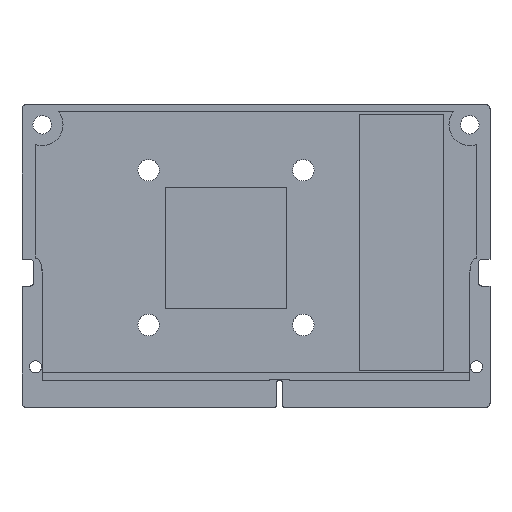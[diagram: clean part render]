
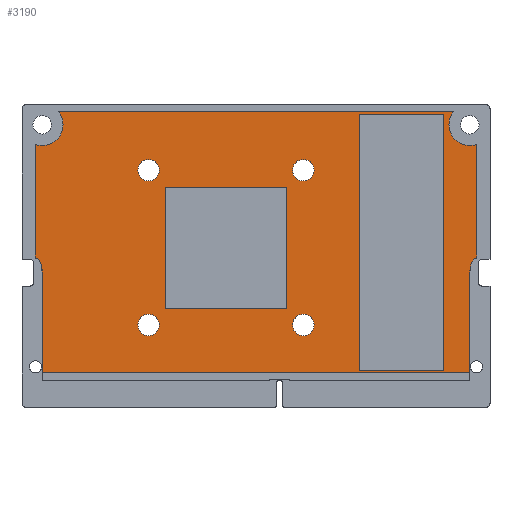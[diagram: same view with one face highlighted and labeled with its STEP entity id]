
A CAD part, top view. The second image highlights one B-rep face of the part: STEP entity #3190.
In plain terms, the highlighted planar face has unit normal (0, 0, 1).
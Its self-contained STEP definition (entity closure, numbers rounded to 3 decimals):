
#987=CARTESIAN_POINT('',(16.83,29.25,3.));
#988=DIRECTION('',(0.,0.,-1.));
#989=DIRECTION('',(1.,0.,0.));
#990=AXIS2_PLACEMENT_3D('',#987,#988,#989);
#995=CARTESIAN_POINT('',(16.83,29.25,3.));
#996=DIRECTION('',(0.,0.,-1.));
#997=DIRECTION('',(-1.,0.,0.));
#998=AXIS2_PLACEMENT_3D('',#995,#996,#997);
#1003=CARTESIAN_POINT('',(39.83,29.25,3.));
#1004=DIRECTION('',(0.,0.,-1.));
#1005=DIRECTION('',(1.,0.,0.));
#1006=AXIS2_PLACEMENT_3D('',#1003,#1004,#1005);
#1011=CARTESIAN_POINT('',(39.83,29.25,3.));
#1012=DIRECTION('',(0.,0.,-1.));
#1013=DIRECTION('',(-1.,0.,0.));
#1014=AXIS2_PLACEMENT_3D('',#1011,#1012,#1013);
#1019=CARTESIAN_POINT('',(16.83,6.25,3.));
#1020=DIRECTION('',(0.,0.,-1.));
#1021=DIRECTION('',(1.,0.,0.));
#1022=AXIS2_PLACEMENT_3D('',#1019,#1020,#1021);
#1027=CARTESIAN_POINT('',(16.83,6.25,3.));
#1028=DIRECTION('',(0.,0.,-1.));
#1029=DIRECTION('',(-1.,0.,0.));
#1030=AXIS2_PLACEMENT_3D('',#1027,#1028,#1029);
#1035=CARTESIAN_POINT('',(39.83,6.25,3.));
#1036=DIRECTION('',(0.,0.,-1.));
#1037=DIRECTION('',(1.,0.,0.));
#1038=AXIS2_PLACEMENT_3D('',#1035,#1036,#1037);
#1043=CARTESIAN_POINT('',(39.83,6.25,3.));
#1044=DIRECTION('',(0.,0.,-1.));
#1045=DIRECTION('',(-1.,0.,0.));
#1046=AXIS2_PLACEMENT_3D('',#1043,#1044,#1045);
#1051=DIRECTION('',(-1.,0.,0.));
#1052=VECTOR('',#1051,58.863);
#1053=CARTESIAN_POINT('',(62.231,38.,3.));
#1054=LINE('',#1053,#1052);
#1058=CARTESIAN_POINT('',(64.6,36.,3.));
#1059=DIRECTION('',(0.,0.,-1.));
#1060=DIRECTION('',(0.323,-0.947,0.));
#1061=AXIS2_PLACEMENT_3D('',#1058,#1059,#1060);
#1066=DIRECTION('',(0.,1.,0.));
#1067=VECTOR('',#1066,16.869);
#1068=CARTESIAN_POINT('',(65.6,16.197,3.));
#1069=LINE('',#1068,#1067);
#1073=CARTESIAN_POINT('',(64.6,14.1,3.));
#1074=CARTESIAN_POINT('',(64.6,14.479,3.));
#1075=CARTESIAN_POINT('',(64.695,15.236,3.));
#1076=CARTESIAN_POINT('',(65.082,16.047,3.));
#1077=CARTESIAN_POINT('',(65.429,16.217,3.));
#1078=CARTESIAN_POINT('',(65.6,16.197,3.));
#1083=DIRECTION('',(0.,1.,0.));
#1084=VECTOR('',#1083,14.9);
#1085=CARTESIAN_POINT('',(64.6,-0.8,3.));
#1086=LINE('',#1085,#1084);
#1090=DIRECTION('',(1.,0.,0.));
#1091=VECTOR('',#1090,63.6);
#1092=CARTESIAN_POINT('',(1.,-0.8,3.));
#1093=LINE('',#1092,#1091);
#1097=DIRECTION('',(0.,-1.,0.));
#1098=VECTOR('',#1097,14.9);
#1099=CARTESIAN_POINT('',(1.,14.1,3.));
#1100=LINE('',#1099,#1098);
#1104=CARTESIAN_POINT('',(0.,16.197,3.));
#1105=CARTESIAN_POINT('',(0.171,16.217,3.));
#1106=CARTESIAN_POINT('',(0.518,16.047,3.));
#1107=CARTESIAN_POINT('',(0.905,15.236,3.));
#1108=CARTESIAN_POINT('',(1.,14.479,3.));
#1109=CARTESIAN_POINT('',(1.,14.1,3.));
#1114=DIRECTION('',(0.,-1.,0.));
#1115=VECTOR('',#1114,16.869);
#1116=CARTESIAN_POINT('',(0.,33.066,3.));
#1117=LINE('',#1116,#1115);
#1121=CARTESIAN_POINT('',(1.,36.,3.));
#1122=DIRECTION('',(0.,0.,-1.));
#1123=DIRECTION('',(0.764,0.645,0.));
#1124=AXIS2_PLACEMENT_3D('',#1121,#1122,#1123);
#1129=DIRECTION('',(0.,-1.,0.));
#1130=VECTOR('',#1129,18.);
#1131=CARTESIAN_POINT('',(37.33,26.75,3.));
#1132=LINE('',#1131,#1130);
#1136=DIRECTION('',(1.,0.,0.));
#1137=VECTOR('',#1136,18.);
#1138=CARTESIAN_POINT('',(19.33,26.75,3.));
#1139=LINE('',#1138,#1137);
#1143=DIRECTION('',(0.,1.,0.));
#1144=VECTOR('',#1143,18.);
#1145=CARTESIAN_POINT('',(19.33,8.75,3.));
#1146=LINE('',#1145,#1144);
#1150=DIRECTION('',(-1.,0.,0.));
#1151=VECTOR('',#1150,18.);
#1152=CARTESIAN_POINT('',(37.33,8.75,3.));
#1153=LINE('',#1152,#1151);
#1437=DIRECTION('',(1.,0.,0.));
#1438=VECTOR('',#1437,12.542);
#1439=CARTESIAN_POINT('',(48.158,-0.58,3.));
#1440=LINE('',#1439,#1438);
#1451=DIRECTION('',(0.,-1.,0.));
#1452=VECTOR('',#1451,38.18);
#1453=CARTESIAN_POINT('',(48.158,37.6,3.));
#1454=LINE('',#1453,#1452);
#1465=DIRECTION('',(-1.,0.,0.));
#1466=VECTOR('',#1465,12.542);
#1467=CARTESIAN_POINT('',(60.7,37.6,3.));
#1468=LINE('',#1467,#1466);
#1479=DIRECTION('',(0.,1.,0.));
#1480=VECTOR('',#1479,38.18);
#1481=CARTESIAN_POINT('',(60.7,-0.58,3.));
#1482=LINE('',#1481,#1480);
#2465=CARTESIAN_POINT('',(62.231,38.,3.));
#2466=CARTESIAN_POINT('',(3.369,38.,3.));
#2467=VERTEX_POINT('',#2465);
#2468=VERTEX_POINT('',#2466);
#2469=CARTESIAN_POINT('',(0.,33.066,3.));
#2470=VERTEX_POINT('',#2469);
#2471=CARTESIAN_POINT('',(0.,16.197,3.));
#2472=VERTEX_POINT('',#2471);
#2473=VERTEX_POINT('',#1109);
#2474=CARTESIAN_POINT('',(1.,-0.8,3.));
#2475=VERTEX_POINT('',#2474);
#2476=CARTESIAN_POINT('',(64.6,-0.8,3.));
#2477=VERTEX_POINT('',#2476);
#2478=CARTESIAN_POINT('',(64.6,14.1,3.));
#2479=VERTEX_POINT('',#2478);
#2480=VERTEX_POINT('',#1078);
#2481=CARTESIAN_POINT('',(65.6,33.066,3.));
#2482=VERTEX_POINT('',#2481);
#2496=CARTESIAN_POINT('',(48.158,-0.58,3.));
#2497=CARTESIAN_POINT('',(60.7,-0.58,3.));
#2498=VERTEX_POINT('',#2496);
#2499=VERTEX_POINT('',#2497);
#2500=CARTESIAN_POINT('',(60.7,37.6,3.));
#2501=VERTEX_POINT('',#2500);
#2502=CARTESIAN_POINT('',(48.158,37.6,3.));
#2503=VERTEX_POINT('',#2502);
#2681=CARTESIAN_POINT('',(18.43,29.25,3.));
#2682=CARTESIAN_POINT('',(15.23,29.25,3.));
#2683=VERTEX_POINT('',#2681);
#2684=VERTEX_POINT('',#2682);
#2685=CARTESIAN_POINT('',(41.43,29.25,3.));
#2686=CARTESIAN_POINT('',(38.23,29.25,3.));
#2687=VERTEX_POINT('',#2685);
#2688=VERTEX_POINT('',#2686);
#2689=CARTESIAN_POINT('',(18.43,6.25,3.));
#2690=CARTESIAN_POINT('',(15.23,6.25,3.));
#2691=VERTEX_POINT('',#2689);
#2692=VERTEX_POINT('',#2690);
#2693=CARTESIAN_POINT('',(41.43,6.25,3.));
#2694=CARTESIAN_POINT('',(38.23,6.25,3.));
#2695=VERTEX_POINT('',#2693);
#2696=VERTEX_POINT('',#2694);
#2697=CARTESIAN_POINT('',(37.33,26.75,3.));
#2698=CARTESIAN_POINT('',(37.33,8.75,3.));
#2699=VERTEX_POINT('',#2697);
#2700=VERTEX_POINT('',#2698);
#2701=CARTESIAN_POINT('',(19.33,8.75,3.));
#2702=VERTEX_POINT('',#2701);
#2703=CARTESIAN_POINT('',(19.33,26.75,3.));
#2704=VERTEX_POINT('',#2703);
#3121=CARTESIAN_POINT('',(0.,0.,3.));
#3122=DIRECTION('',(0.,0.,1.));
#3123=DIRECTION('',(1.,0.,0.));
#3124=AXIS2_PLACEMENT_3D('',#3121,#3122,#3123);
#3125=PLANE('',#3124);
#3127=ORIENTED_EDGE('',*,*,#3126,.F.);
#3129=ORIENTED_EDGE('',*,*,#3128,.F.);
#3131=ORIENTED_EDGE('',*,*,#3130,.F.);
#3133=ORIENTED_EDGE('',*,*,#3132,.F.);
#3135=ORIENTED_EDGE('',*,*,#3134,.F.);
#3137=ORIENTED_EDGE('',*,*,#3136,.F.);
#3139=ORIENTED_EDGE('',*,*,#3138,.F.);
#3141=ORIENTED_EDGE('',*,*,#3140,.F.);
#3143=ORIENTED_EDGE('',*,*,#3142,.F.);
#3145=ORIENTED_EDGE('',*,*,#3144,.F.);
#3146=EDGE_LOOP('',(#3127,#3129,#3131,#3133,#3135,#3137,#3139,#3141,#3143,
#3145));
#3147=FACE_OUTER_BOUND('',#3146,.F.);
#3149=ORIENTED_EDGE('',*,*,#3148,.F.);
#3151=ORIENTED_EDGE('',*,*,#3150,.F.);
#3152=EDGE_LOOP('',(#3149,#3151));
#3153=FACE_BOUND('',#3152,.F.);
#3154=ORIENTED_EDGE('',*,*,#3102,.F.);
#3155=ORIENTED_EDGE('',*,*,#3076,.F.);
#3156=EDGE_LOOP('',(#3154,#3155));
#3157=FACE_BOUND('',#3156,.F.);
#3159=ORIENTED_EDGE('',*,*,#3158,.F.);
#3161=ORIENTED_EDGE('',*,*,#3160,.F.);
#3162=EDGE_LOOP('',(#3159,#3161));
#3163=FACE_BOUND('',#3162,.F.);
#3165=ORIENTED_EDGE('',*,*,#3164,.F.);
#3167=ORIENTED_EDGE('',*,*,#3166,.F.);
#3168=EDGE_LOOP('',(#3165,#3167));
#3169=FACE_BOUND('',#3168,.F.);
#3171=ORIENTED_EDGE('',*,*,#3170,.F.);
#3173=ORIENTED_EDGE('',*,*,#3172,.F.);
#3175=ORIENTED_EDGE('',*,*,#3174,.F.);
#3177=ORIENTED_EDGE('',*,*,#3176,.F.);
#3178=EDGE_LOOP('',(#3171,#3173,#3175,#3177));
#3179=FACE_BOUND('',#3178,.F.);
#3181=ORIENTED_EDGE('',*,*,#3180,.T.);
#3183=ORIENTED_EDGE('',*,*,#3182,.T.);
#3185=ORIENTED_EDGE('',*,*,#3184,.T.);
#3187=ORIENTED_EDGE('',*,*,#3186,.T.);
#3188=EDGE_LOOP('',(#3181,#3183,#3185,#3187));
#3189=FACE_BOUND('',#3188,.F.);
#3190=ADVANCED_FACE('',(#3147,#3153,#3157,#3163,#3169,#3179,#3189),#3125,.T.);
#991=CIRCLE('',#990,1.6);
#999=CIRCLE('',#998,1.6);
#1007=CIRCLE('',#1006,1.6);
#1015=CIRCLE('',#1014,1.6);
#1023=CIRCLE('',#1022,1.6);
#1031=CIRCLE('',#1030,1.6);
#1039=CIRCLE('',#1038,1.6);
#1047=CIRCLE('',#1046,1.6);
#1062=CIRCLE('',#1061,3.1);
#1079=B_SPLINE_CURVE_WITH_KNOTS('',3,(#1073,#1074,#1075,#1076,#1077,#1078),
.UNSPECIFIED.,.F.,.F.,(4,1,1,4),(0.,0.333,0.667,1.),
.UNSPECIFIED.);
#1110=B_SPLINE_CURVE_WITH_KNOTS('',3,(#1104,#1105,#1106,#1107,#1108,#1109),
.UNSPECIFIED.,.F.,.F.,(4,1,1,4),(0.,0.333,0.667,1.),
.UNSPECIFIED.);
#1125=CIRCLE('',#1124,3.1);
#3076=EDGE_CURVE('',#2692,#2691,#1031,.T.);
#3102=EDGE_CURVE('',#2691,#2692,#1023,.T.);
#3126=EDGE_CURVE('',#2467,#2468,#1054,.T.);
#3128=EDGE_CURVE('',#2482,#2467,#1062,.T.);
#3130=EDGE_CURVE('',#2480,#2482,#1069,.T.);
#3132=EDGE_CURVE('',#2479,#2480,#1079,.T.);
#3134=EDGE_CURVE('',#2477,#2479,#1086,.T.);
#3136=EDGE_CURVE('',#2475,#2477,#1093,.T.);
#3138=EDGE_CURVE('',#2473,#2475,#1100,.T.);
#3140=EDGE_CURVE('',#2472,#2473,#1110,.T.);
#3142=EDGE_CURVE('',#2470,#2472,#1117,.T.);
#3144=EDGE_CURVE('',#2468,#2470,#1125,.T.);
#3148=EDGE_CURVE('',#2687,#2688,#1007,.T.);
#3150=EDGE_CURVE('',#2688,#2687,#1015,.T.);
#3158=EDGE_CURVE('',#2695,#2696,#1039,.T.);
#3160=EDGE_CURVE('',#2696,#2695,#1047,.T.);
#3164=EDGE_CURVE('',#2683,#2684,#991,.T.);
#3166=EDGE_CURVE('',#2684,#2683,#999,.T.);
#3170=EDGE_CURVE('',#2699,#2700,#1132,.T.);
#3172=EDGE_CURVE('',#2704,#2699,#1139,.T.);
#3174=EDGE_CURVE('',#2702,#2704,#1146,.T.);
#3176=EDGE_CURVE('',#2700,#2702,#1153,.T.);
#3180=EDGE_CURVE('',#2498,#2499,#1440,.T.);
#3182=EDGE_CURVE('',#2499,#2501,#1482,.T.);
#3184=EDGE_CURVE('',#2501,#2503,#1468,.T.);
#3186=EDGE_CURVE('',#2503,#2498,#1454,.T.);
